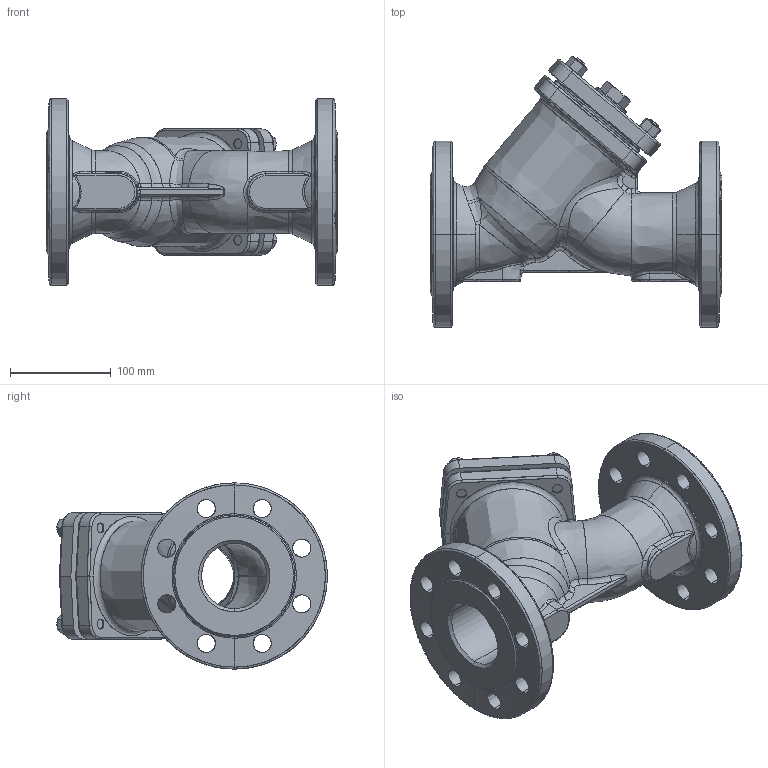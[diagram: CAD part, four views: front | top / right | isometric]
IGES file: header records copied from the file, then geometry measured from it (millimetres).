
Start section: SolidWorks IGES file using analytic representation for surfaces
Global section: file name: D:\Archiwum SolidWorks\staliwo\821\PN40\CAD\821_DN65 PN40.IGS; native system: SolidWorks 2010; preprocessor: SolidWorks 2010; author: wtarnaws; date: 100113.080451; units: millimetre
Bounding box: 290 x 268.89 x 185 mm (x, y, z)
Surface area: 374413.1 mm2 (no closed solid volume)
Topology: 0 solids, 0 shells, 576 faces, 9438 edges, 9437 vertices
Faces by surface type: revolution 300, bspline 276
